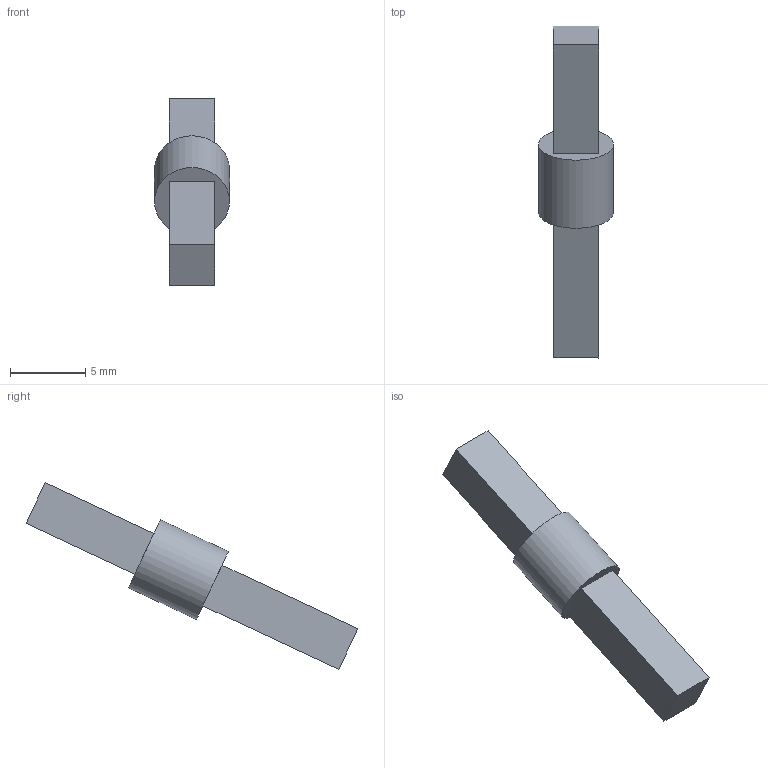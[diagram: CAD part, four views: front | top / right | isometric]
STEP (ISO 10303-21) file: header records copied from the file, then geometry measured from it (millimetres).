
FILE_DESCRIPTION(/* description */ ('STEP AP242 Edition 2','CAx-IF Rec.Pracs.---Representation and Presentation of Product Manufacturing Information (PMI)---4.0---2014-10-13','CAx-IF Rec.Pracs.---3D Tessellated Geometry---0.4---2014-09-14','2;1','CAx-IF Rec.Pracs.---User Defined Attributes---1.5---2016-08-15'),/* implementation_level */ '2;1');
FILE_NAME(/* name */ 'main - pinion',/* time_stamp */ '2026-11-08T20:03:45Z',/* author */ (''),/* organization */ (''),/* preprocessor_version */ 'ST-DEVELOPER v20',/* originating_system */ 'ONSHAPE BY PTC INC, 1.223',/* authorisation */ ' ');
FILE_SCHEMA (('AP242_MANAGED_MODEL_BASED_3D_ENGINEERING_MIM_LF { 1 0 10303 442 3 1 4 }'));
Length unit declared in the file: metre
Products named in the file (1): pinion
Bounding box: 5 x 22.11 x 12.44 mm (x, y, z)
Volume: 260.2 mm3; surface area: 333.8 mm2
Topology: 1 solids, 1 shells, 13 faces, 27 edges, 18 vertices
Faces by surface type: plane 12, cylinder 1
Full cylindrical faces by diameter (mm): 5 x1
Entity records: 360 total; most frequent: CARTESIAN_POINT 58, DIRECTION 56, ORIENTED_EDGE 52, EDGE_CURVE 26, LINE 24, VECTOR 24, VERTEX_POINT 18, EDGE_LOOP 16
